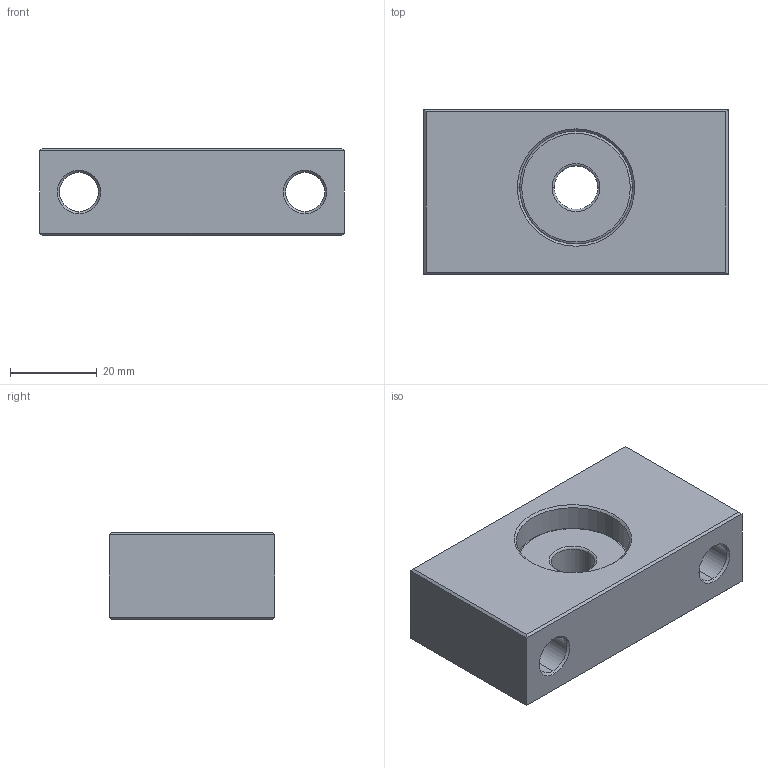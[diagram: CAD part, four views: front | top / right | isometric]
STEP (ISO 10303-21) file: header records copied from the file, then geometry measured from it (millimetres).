
FILE_DESCRIPTION (( 'STEP AP203' ), '1' );
FILE_NAME ('CSGF-12_203.STEP', '2013-03-03T01:24:45', ( 'Z77' ), ( '' ), 'SwSTEP 2.0', 'SolidWorks 2012', '' );
FILE_SCHEMA (( 'CONFIG_CONTROL_DESIGN' ));
Length unit declared in the file: millimetre
Products named in the file (1): CSGF-12_203
Bounding box: 70 x 38 x 20 mm (x, y, z)
Volume: 37828.4 mm3; surface area: 13104.9 mm2
Topology: 1 solids, 1 shells, 52 faces, 110 edges, 64 vertices
Faces by surface type: plane 18, cylinder 14, cone 12, torus 8
Entity records: 1475 total; most frequent: DIRECTION 272, CARTESIAN_POINT 227, ORIENTED_EDGE 220, EDGE_CURVE 110, AXIS2_PLACEMENT_3D 109, VERTEX_POINT 64, EDGE_LOOP 62, CIRCLE 56
